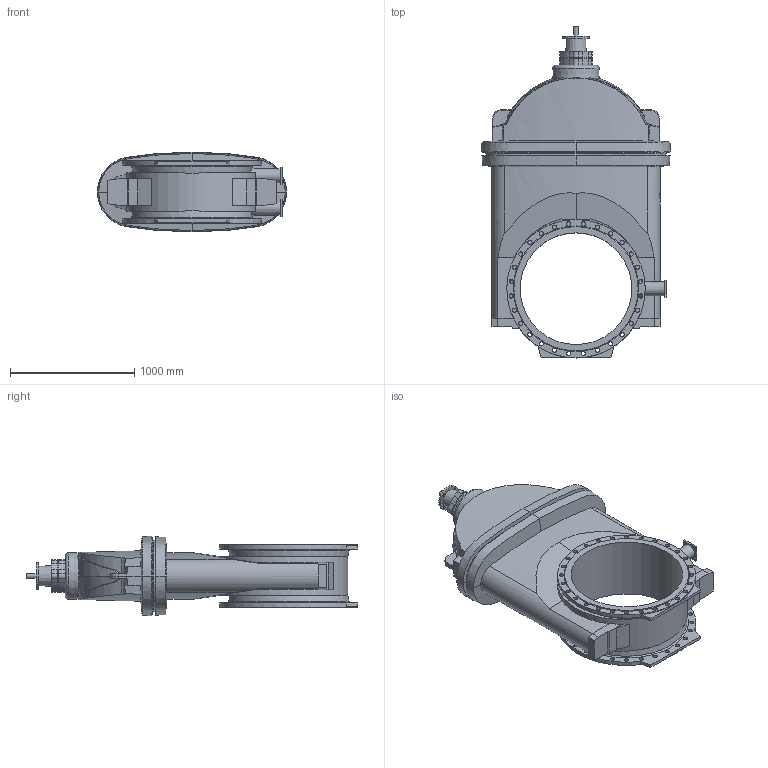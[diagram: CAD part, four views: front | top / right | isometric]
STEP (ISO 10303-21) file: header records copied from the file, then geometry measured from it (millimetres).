
FILE_DESCRIPTION (( 'STEP AP203' ), '1' );
FILE_NAME ('O_06_30_DN900_00464_AA2.step', '2018-08-20T05:44:49', ( 'Windows User' ), ( 'AVK' ), 'SwSTEP 2.0', 'SolidWorks 2012', '' );
FILE_SCHEMA (( 'CONFIG_CONTROL_DESIGN' ));
Length unit declared in the file: millimetre
Products named in the file (1): O_06_30_DN900_00464_AA2
Bounding box: 1525 x 2674.75 x 642.5 mm (x, y, z)
Volume: 738356623.8 mm3; surface area: 10277581.7 mm2
Topology: 1 solids, 1 shells, 345 faces, 999 edges, 666 vertices
Faces by surface type: plane 159, cylinder 99, cone 45, bspline 39, torus 3
Full cylindrical faces by diameter (mm): 23 x4, 34 x56, 40 x1, 210 x1, 900 x1, 1115 x2
Entity records: 14743 total; most frequent: CARTESIAN_POINT 6394, ORIENTED_EDGE 1716, DIRECTION 1536, EDGE_CURVE 858, AXIS2_PLACEMENT_3D 606, VERTEX_POINT 602, EDGE_LOOP 554, FACE_OUTER_BOUND 413
